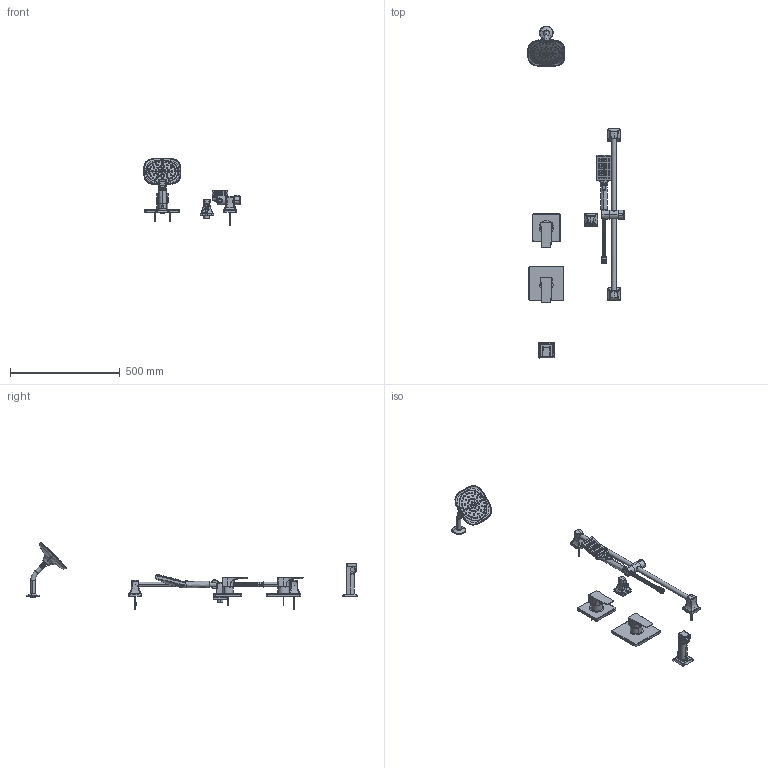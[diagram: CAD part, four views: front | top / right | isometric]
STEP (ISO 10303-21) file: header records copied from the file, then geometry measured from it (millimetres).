
FILE_DESCRIPTION (( 'STEP AP214' ), '1' );
FILE_NAME ('4996TRM.STEP', '2025-01-02T05:04:05', ( '' ), ( '' ), 'SwSTEP 2.0', 'SolidWorks 2023', '' );
FILE_SCHEMA (( 'AUTOMOTIVE_DESIGN' ));
Length unit declared in the file: metre
Products named in the file (1): 4996TRM
Bounding box: 440.44 x 1514.79 x 309.15 mm (x, y, z)
Surface area: 570052 mm2 (no closed solid volume)
Topology: 0 solids, 362 shells, 1820 faces, 6946 edges, 5368 vertices
Faces by surface type: bspline 471, plane 466, cylinder 463, cone 314, torus 100, sphere 6
Entity records: 243183 total; most frequent: CARTESIAN_POINT 192583, ORIENTED_EDGE 9629, DIRECTION 8539, EDGE_CURVE 6935, VERTEX_POINT 5367, AXIS2_PLACEMENT_3D 3254, B_SPLINE_CURVE_WITH_KNOTS 2748, EDGE_LOOP 2202
